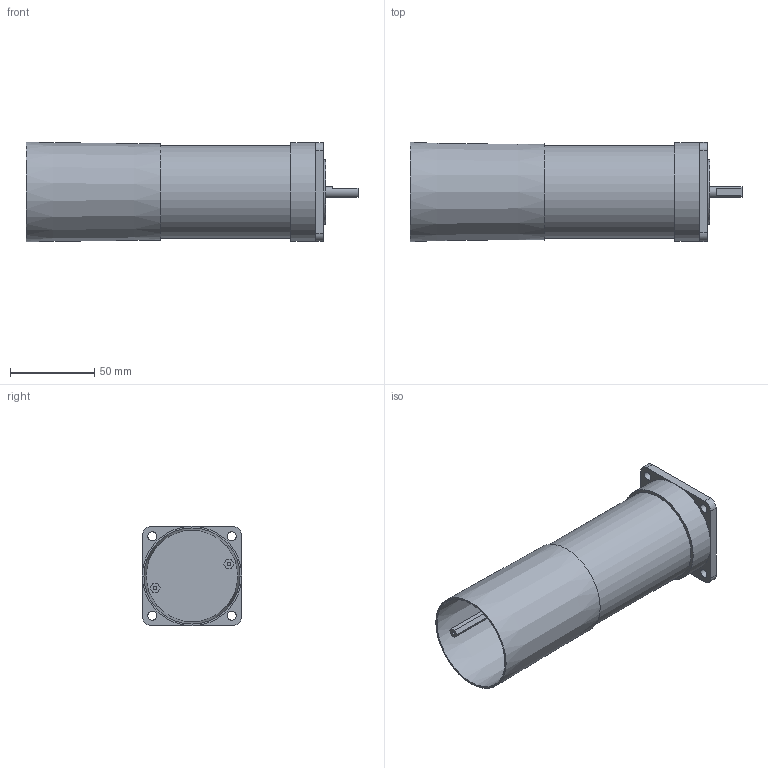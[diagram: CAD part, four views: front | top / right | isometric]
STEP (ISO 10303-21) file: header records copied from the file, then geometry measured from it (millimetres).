
FILE_DESCRIPTION( ( 'Unknown' ), '1' );
FILE_NAME( 'K:/JVL/MACxxx/MAC50_95_140_141/CAD internet tegninger/STEP/STP/MAC141-A3.stp', 'Unknown', ( 'Unknown' ), ( 'Unknown' ), 'PSStep 11.0', 'Unknown', ' ' );
FILE_SCHEMA( ( 'AUTOMOTIVE_DESIGN { 1 0 10303 214 1 1 1 1 }' ) );
Length unit declared in the file: millimetre
Products named in the file (1): 1
Bounding box: 197.07 x 59 x 59 mm (x, y, z)
Volume: 272132.8 mm3; surface area: 55474.8 mm2
Topology: 1 solids, 1 shells, 55 faces, 125 edges, 84 vertices
Faces by surface type: plane 36, cylinder 17, cone 2
Full cylindrical faces by diameter (mm): 2.013 x2, 5.2 x4, 6.35 x1, 8.4 x1, 12.6 x1, 18 x1, 38.1 x1, 55 x1, 58.7 x1
Entity records: 1882 total; most frequent: DIRECTION 256, CARTESIAN_POINT 234, ORIENTED_EDGE 204, EDGE_CURVE 102, AXIS2_PLACEMENT_3D 98, EDGE_LOOP 90, VERTEX_POINT 76, FACE_OUTER_BOUND 68
